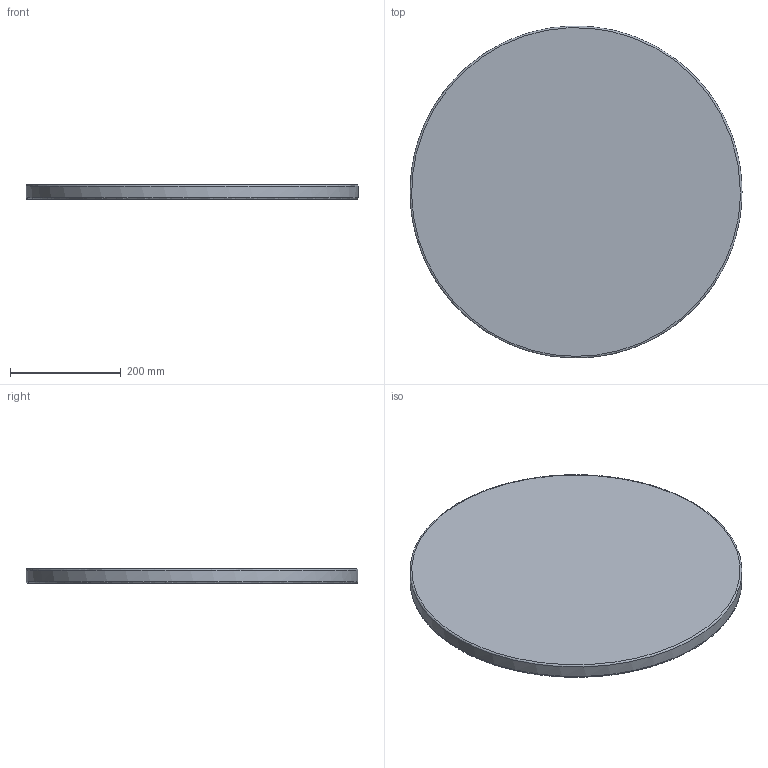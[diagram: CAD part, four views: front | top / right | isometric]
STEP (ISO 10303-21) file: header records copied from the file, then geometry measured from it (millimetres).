
FILE_DESCRIPTION(/* description */ (''),/* implementation_level */ '2;1');
FILE_NAME(/* name */ 'kinoshita_abord_gt002-600Φ',/* time_stamp */ '2025-09-16T17:31:48+09:00',/* author */ (''),/* organization */ (''),/* preprocessor_version */ 'ST-DEVELOPER v16.5',/* originating_system */ '',/* authorisation */ '');
FILE_SCHEMA (('AUTOMOTIVE_DESIGN'));
Length unit declared in the file: millimetre
Products named in the file (1): Document
Bounding box: 599.99 x 599.83 x 27 mm (x, y, z)
Volume: 7685717.8 mm3; surface area: 612427.2 mm2
Topology: 1 solids, 1 shells, 5 faces, 7 edges, 4 vertices
Faces by surface type: bspline 3, plane 2
Entity records: 195 total; most frequent: CARTESIAN_POINT 124, ORIENTED_EDGE 14, EDGE_CURVE 7, DIRECTION 6, ADVANCED_FACE 5, FACE_OUTER_BOUND 5, EDGE_LOOP 5, VERTEX_POINT 4
